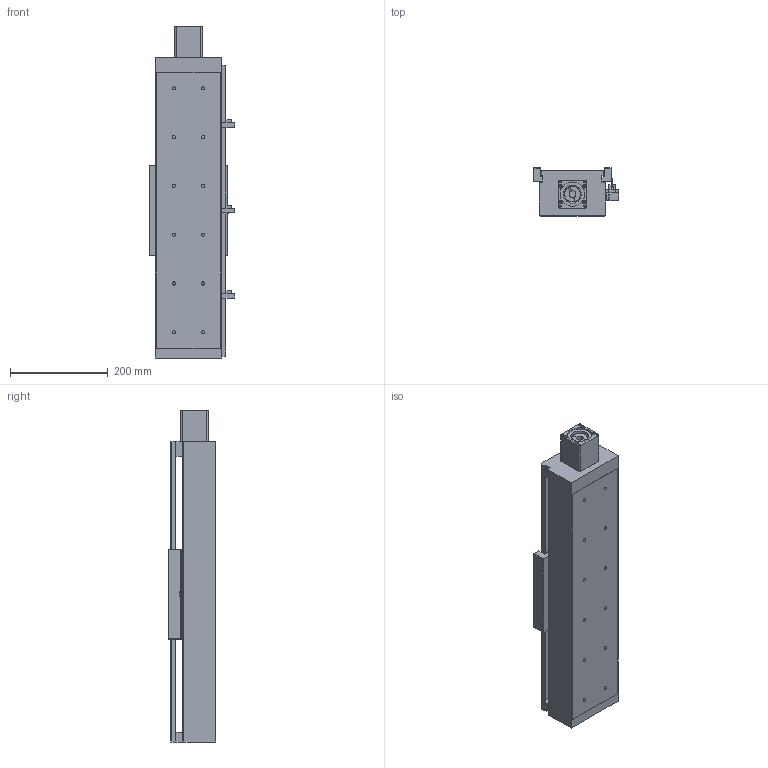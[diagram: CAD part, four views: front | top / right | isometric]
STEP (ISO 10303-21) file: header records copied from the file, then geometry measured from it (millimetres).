
FILE_DESCRIPTION((''),'2;1');
FILE_NAME('E:\libraries\UIA actuator library 2009\standard actuator\UIA136 ball screw 25\UIA136R15NDC-_ _ _-R25_ _, stp file 27Apr16\UIA136R15NDC-350-R25_ _-M60-P13-C10-S.stp','2016-04-28T16:11:07',('h029'),(''),'Autodesk Inventor 11','Autodesk Inventor 11','');
FILE_SCHEMA(('AUTOMOTIVE_DESIGN { 1 0 10303 214 1 1 1 1 }'));
Length unit declared in the file: millimetre
Products named in the file (10): UIA136R15NDC-350; UIA136R15NDC-body; motor mount F60; SOH-32C; SOH-32C-3; SOH-32C-1; SOH-32C-2; Carriage; Sensor Switch; sensor rail
Assembly tree (9 placements, depth 3):
  UIA136R15NDC-350
    UIA136R15NDC-body
    motor mount F60
    SOH-32C
      SOH-32C-3
      SOH-32C-1
      SOH-32C-2
    Carriage
    Sensor Switch
    sensor rail
Bounding box: 174.5 x 98 x 680 mm (x, y, z)
Volume: 2927172.9 mm3; surface area: 752126.8 mm2
Topology: 8 solids, 8 shells, 492 faces, 1307 edges, 854 vertices
Faces by surface type: plane 322, bspline 122, cylinder 44, cone 4
Full cylindrical faces by diameter (mm): 2.459 x2, 3.242 x2, 4.5 x2, 7 x4, 7.5 x2, 14 x3, 17 x1, 32 x3, 37 x1, 50.3 x1, 50.5 x1
Entity records: 16044 total; most frequent: CARTESIAN_POINT 4508, ORIENTED_EDGE 2240, DIRECTION 2194, EDGE_CURVE 1120, VECTOR 808, LINE 808, VERTEX_POINT 790, EDGE_LOOP 716
